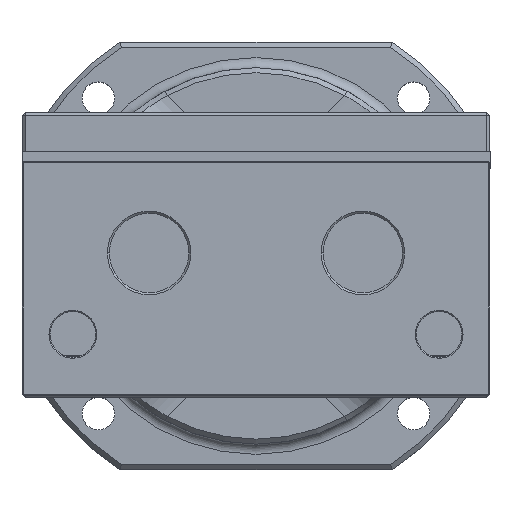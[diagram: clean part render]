
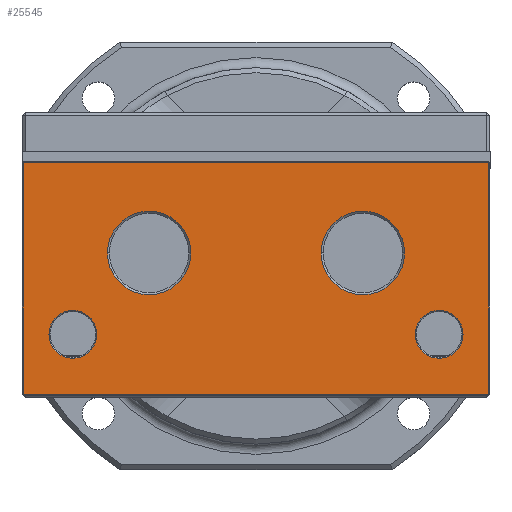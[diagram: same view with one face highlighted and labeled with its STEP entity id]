
A CAD part, top view. The second image highlights one B-rep face of the part: STEP entity #25545.
In plain terms, the highlighted planar face has unit normal (0, 0, 1).
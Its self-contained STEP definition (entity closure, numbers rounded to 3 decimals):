
#231 = DIRECTION ( 'NONE',  ( -1., 0., 0. ) ) ;
#2371 = DIRECTION ( 'NONE',  ( -1., 0., 0. ) ) ;
#2636 = CARTESIAN_POINT ( 'NONE',  ( 6.4, 14., 134. ) ) ;
#2930 = VERTEX_POINT ( 'NONE', #50393 ) ;
#2986 = DIRECTION ( 'NONE',  ( -1., 0., 0. ) ) ;
#3162 = EDGE_CURVE ( 'NONE', #6543, #42100, #4929, .T. ) ;
#3490 = DIRECTION ( 'NONE',  ( 0., 0., -1. ) ) ;
#4330 = EDGE_CURVE ( 'NONE', #20656, #86286, #24506, .T. ) ;
#4929 = LINE ( 'NONE', #8634, #81321 ) ;
#5249 = CARTESIAN_POINT ( 'NONE',  ( -20.35, 6., 134. ) ) ;
#5680 = CARTESIAN_POINT ( 'NONE',  ( -14.6, 14., 134. ) ) ;
#6040 = CARTESIAN_POINT ( 'NONE',  ( -18., 6., 134. ) ) ;
#6454 = FACE_OUTER_BOUND ( 'NONE', #88252, .T. ) ;
#6543 = VERTEX_POINT ( 'NONE', #55876 ) ;
#7320 = DIRECTION ( 'NONE',  ( -1., 0., 0. ) ) ;
#8634 = CARTESIAN_POINT ( 'NONE',  ( 22.9, 23., 134. ) ) ;
#10621 = DIRECTION ( 'NONE',  ( 0., 0., -1. ) ) ;
#10678 = CIRCLE ( 'NONE', #85831, 4.1 ) ;
#10828 = VECTOR ( 'NONE', #84758, 1000. ) ;
#11441 = AXIS2_PLACEMENT_3D ( 'NONE', #54991, #10621, #62453 ) ;
#11757 = VERTEX_POINT ( 'NONE', #61961 ) ;
#12644 = CARTESIAN_POINT ( 'NONE',  ( 10.5, 14., 134. ) ) ;
#13417 = LINE ( 'NONE', #78650, #52817 ) ;
#13489 = DIRECTION ( 'NONE',  ( -1., 0., 0. ) ) ;
#16054 = DIRECTION ( 'NONE',  ( 0., 1., 0. ) ) ;
#16062 = VERTEX_POINT ( 'NONE', #5680 ) ;
#19046 = CIRCLE ( 'NONE', #77339, 2.35 ) ;
#19560 = ORIENTED_EDGE ( 'NONE', *, *, #22301, .T. ) ;
#20035 = DIRECTION ( 'NONE',  ( -1., 0., 0. ) ) ;
#20656 = VERTEX_POINT ( 'NONE', #2636 ) ;
#21530 = EDGE_LOOP ( 'NONE', ( #54588, #47859 ) ) ;
#22301 = EDGE_CURVE ( 'NONE', #58500, #91266, #46127, .T. ) ;
#23757 = CARTESIAN_POINT ( 'NONE',  ( -22.9, 22.9, 134. ) ) ;
#24506 = CIRCLE ( 'NONE', #11441, 4.1 ) ;
#25018 = DIRECTION ( 'NONE',  ( 0., -1., 0. ) ) ;
#25545 = ADVANCED_FACE ( 'NONE', ( #30739, #45851, #67859, #26086, #6454 ), #73961, .F. ) ;
#26086 = FACE_BOUND ( 'NONE', #78417, .T. ) ;
#26350 = VECTOR ( 'NONE', #25018, 1000. ) ;
#27040 = EDGE_CURVE ( 'NONE', #2930, #11757, #31234, .T. ) ;
#27964 = CARTESIAN_POINT ( 'NONE',  ( -15.65, 6., 134. ) ) ;
#29522 = CARTESIAN_POINT ( 'NONE',  ( -18., 6., 134. ) ) ;
#30739 = FACE_BOUND ( 'NONE', #84650, .T. ) ;
#30806 = ORIENTED_EDGE ( 'NONE', *, *, #65704, .T. ) ;
#30822 = AXIS2_PLACEMENT_3D ( 'NONE', #91552, #47330, #2986 ) ;
#31234 = CIRCLE ( 'NONE', #30822, 2.35 ) ;
#34318 = DIRECTION ( 'NONE',  ( 1., 0., 0. ) ) ;
#35431 = VERTEX_POINT ( 'NONE', #85309 ) ;
#36334 = AXIS2_PLACEMENT_3D ( 'NONE', #36389, #44527, #231 ) ;
#36389 = CARTESIAN_POINT ( 'NONE',  ( -23., 0., 134. ) ) ;
#36974 = DIRECTION ( 'NONE',  ( -1., 0., 0. ) ) ;
#38038 = ORIENTED_EDGE ( 'NONE', *, *, #4330, .T. ) ;
#39441 = CARTESIAN_POINT ( 'NONE',  ( 14.6, 14., 134. ) ) ;
#40450 = CARTESIAN_POINT ( 'NONE',  ( -23., 22.9, 134. ) ) ;
#41864 = ORIENTED_EDGE ( 'NONE', *, *, #27040, .T. ) ;
#42100 = VERTEX_POINT ( 'NONE', #57911 ) ;
#42105 = CIRCLE ( 'NONE', #65372, 2.35 ) ;
#43964 = EDGE_CURVE ( 'NONE', #48035, #67903, #19046, .T. ) ;
#44527 = DIRECTION ( 'NONE',  ( 0., 0., -1. ) ) ;
#45851 = FACE_BOUND ( 'NONE', #21530, .T. ) ;
#46127 = LINE ( 'NONE', #69400, #26350 ) ;
#46669 = ORIENTED_EDGE ( 'NONE', *, *, #74766, .T. ) ;
#46706 = DIRECTION ( 'NONE',  ( 0., 0., -1. ) ) ;
#46976 = AXIS2_PLACEMENT_3D ( 'NONE', #90946, #46706, #2371 ) ;
#47330 = DIRECTION ( 'NONE',  ( 0., 0., -1. ) ) ;
#47493 = ORIENTED_EDGE ( 'NONE', *, *, #62471, .T. ) ;
#47713 = EDGE_CURVE ( 'NONE', #11757, #2930, #42105, .T. ) ;
#47825 = CARTESIAN_POINT ( 'NONE',  ( 18., 6., 134. ) ) ;
#47859 = ORIENTED_EDGE ( 'NONE', *, *, #50402, .T. ) ;
#48035 = VERTEX_POINT ( 'NONE', #27964 ) ;
#50393 = CARTESIAN_POINT ( 'NONE',  ( 20.35, 6., 134. ) ) ;
#50402 = EDGE_CURVE ( 'NONE', #16062, #35431, #10678, .T. ) ;
#51653 = DIRECTION ( 'NONE',  ( 0., 0., -1. ) ) ;
#52817 = VECTOR ( 'NONE', #34318, 1000. ) ;
#54588 = ORIENTED_EDGE ( 'NONE', *, *, #85883, .T. ) ;
#54991 = CARTESIAN_POINT ( 'NONE',  ( 10.5, 14., 134. ) ) ;
#55299 = DIRECTION ( 'NONE',  ( -1., 0., 0. ) ) ;
#55876 = CARTESIAN_POINT ( 'NONE',  ( 22.9, 0.1, 134. ) ) ;
#57867 = DIRECTION ( 'NONE',  ( 0., 0., -1. ) ) ;
#57911 = CARTESIAN_POINT ( 'NONE',  ( 22.9, 22.9, 134. ) ) ;
#58474 = ORIENTED_EDGE ( 'NONE', *, *, #43964, .T. ) ;
#58500 = VERTEX_POINT ( 'NONE', #23757 ) ;
#59266 = CIRCLE ( 'NONE', #92758, 4.1 ) ;
#61961 = CARTESIAN_POINT ( 'NONE',  ( 15.65, 6., 134. ) ) ;
#62453 = DIRECTION ( 'NONE',  ( -1., 0., 0. ) ) ;
#62471 = EDGE_CURVE ( 'NONE', #91266, #6543, #13417, .T. ) ;
#64450 = DIRECTION ( 'NONE',  ( 0., 0., -1. ) ) ;
#65372 = AXIS2_PLACEMENT_3D ( 'NONE', #47825, #3490, #55299 ) ;
#65704 = EDGE_CURVE ( 'NONE', #42100, #58500, #69883, .T. ) ;
#67859 = FACE_BOUND ( 'NONE', #77896, .T. ) ;
#67903 = VERTEX_POINT ( 'NONE', #5249 ) ;
#69400 = CARTESIAN_POINT ( 'NONE',  ( -22.9, 0., 134. ) ) ;
#69883 = LINE ( 'NONE', #40450, #10828 ) ;
#70744 = EDGE_CURVE ( 'NONE', #86286, #20656, #59266, .T. ) ;
#72859 = ORIENTED_EDGE ( 'NONE', *, *, #70744, .T. ) ;
#73961 = PLANE ( 'NONE',  #36334 ) ;
#74766 = EDGE_CURVE ( 'NONE', #67903, #48035, #84341, .T. ) ;
#75282 = CIRCLE ( 'NONE', #46976, 4.1 ) ;
#77339 = AXIS2_PLACEMENT_3D ( 'NONE', #29522, #81303, #36974 ) ;
#77896 = EDGE_LOOP ( 'NONE', ( #58474, #46669 ) ) ;
#78417 = EDGE_LOOP ( 'NONE', ( #41864, #81690 ) ) ;
#78650 = CARTESIAN_POINT ( 'NONE',  ( 23., 0.1, 134. ) ) ;
#81303 = DIRECTION ( 'NONE',  ( 0., 0., -1. ) ) ;
#81321 = VECTOR ( 'NONE', #16054, 1000. ) ;
#81690 = ORIENTED_EDGE ( 'NONE', *, *, #47713, .T. ) ;
#84341 = CIRCLE ( 'NONE', #87961, 2.35 ) ;
#84650 = EDGE_LOOP ( 'NONE', ( #72859, #38038 ) ) ;
#84758 = DIRECTION ( 'NONE',  ( -1., 0., 0. ) ) ;
#85238 = CARTESIAN_POINT ( 'NONE',  ( -22.9, 0.1, 134. ) ) ;
#85309 = CARTESIAN_POINT ( 'NONE',  ( -6.4, 14., 134. ) ) ;
#85831 = AXIS2_PLACEMENT_3D ( 'NONE', #95879, #51653, #7320 ) ;
#85883 = EDGE_CURVE ( 'NONE', #35431, #16062, #75282, .T. ) ;
#86286 = VERTEX_POINT ( 'NONE', #39441 ) ;
#87961 = AXIS2_PLACEMENT_3D ( 'NONE', #6040, #57867, #13489 ) ;
#88252 = EDGE_LOOP ( 'NONE', ( #30806, #19560, #47493, #94104 ) ) ;
#90946 = CARTESIAN_POINT ( 'NONE',  ( -10.5, 14., 134. ) ) ;
#91266 = VERTEX_POINT ( 'NONE', #85238 ) ;
#91552 = CARTESIAN_POINT ( 'NONE',  ( 18., 6., 134. ) ) ;
#92758 = AXIS2_PLACEMENT_3D ( 'NONE', #12644, #64450, #20035 ) ;
#94104 = ORIENTED_EDGE ( 'NONE', *, *, #3162, .T. ) ;
#95879 = CARTESIAN_POINT ( 'NONE',  ( -10.5, 14., 134. ) ) ;
